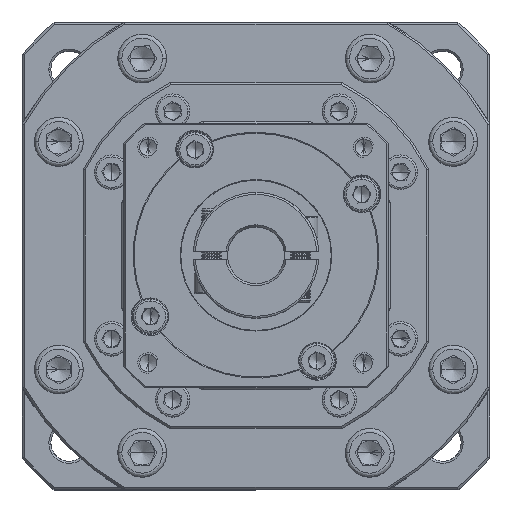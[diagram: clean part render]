
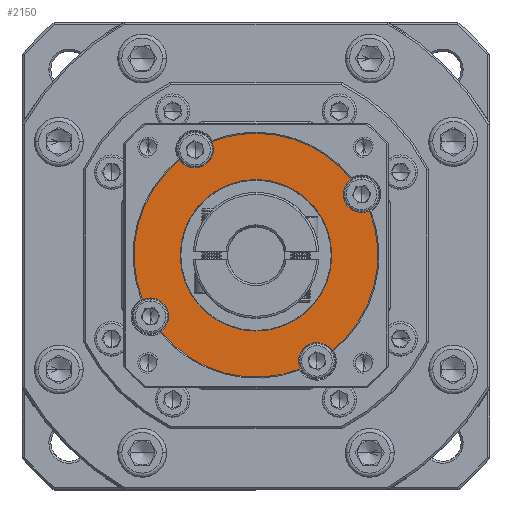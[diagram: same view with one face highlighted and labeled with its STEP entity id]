
A CAD part, top view. The second image highlights one B-rep face of the part: STEP entity #2150.
In plain terms, the highlighted planar face has unit normal (0, 0, 1).
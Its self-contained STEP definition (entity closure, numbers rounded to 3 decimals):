
#1583 = EDGE_CURVE ( 'NONE', #20676, #25884, #42867, .T. ) ;
#1884 = CIRCLE ( 'NONE', #2758, 4.5 ) ;
#2150 = ADVANCED_FACE ( 'NONE', ( #39103, #94639 ), #41889, .T. ) ;
#2758 = AXIS2_PLACEMENT_3D ( 'NONE', #60636, #62562, #83421 ) ;
#5411 = VERTEX_POINT ( 'NONE', #8625 ) ;
#8625 = CARTESIAN_POINT ( 'NONE',  ( 78.881, 85.146, -8.557 ) ) ;
#8920 = CARTESIAN_POINT ( 'NONE',  ( 41.955, 98.079, -8.557 ) ) ;
#9005 = VERTEX_POINT ( 'NONE', #93839 ) ;
#9643 = EDGE_CURVE ( 'NONE', #23961, #38731, #120857, .T. ) ;
#10913 = AXIS2_PLACEMENT_3D ( 'NONE', #143062, #11143, #110137 ) ;
#11143 = DIRECTION ( 'NONE',  ( 0., 0., 1. ) ) ;
#11652 = CARTESIAN_POINT ( 'NONE',  ( 67.936, 113.079, -8.557 ) ) ;
#12842 = DIRECTION ( 'NONE',  ( 0., 1., 0. ) ) ;
#15716 = CARTESIAN_POINT ( 'NONE',  ( 67.936, 113.079, -8.557 ) ) ;
#16223 = ORIENTED_EDGE ( 'NONE', *, *, #98558, .T. ) ;
#17150 = CIRCLE ( 'NONE', #108333, 30. ) ;
#17811 = DIRECTION ( 'NONE',  ( 0., 1., 0. ) ) ;
#18512 = CIRCLE ( 'NONE', #130643, 4.5 ) ;
#19123 = VERTEX_POINT ( 'NONE', #62509 ) ;
#20676 = VERTEX_POINT ( 'NONE', #97247 ) ;
#21327 = AXIS2_PLACEMENT_3D ( 'NONE', #28621, #106267, #105787 ) ;
#22831 = DIRECTION ( 'NONE',  ( 0., 1., 0. ) ) ;
#23805 = CARTESIAN_POINT ( 'NONE',  ( 52.936, 139.059, -8.557 ) ) ;
#23858 = ORIENTED_EDGE ( 'NONE', *, *, #53597, .T. ) ;
#23961 = VERTEX_POINT ( 'NONE', #83883 ) ;
#25309 = CIRCLE ( 'NONE', #85919, 18.644 ) ;
#25884 = VERTEX_POINT ( 'NONE', #41185 ) ;
#26803 = ORIENTED_EDGE ( 'NONE', *, *, #141169, .F. ) ;
#28621 = CARTESIAN_POINT ( 'NONE',  ( 93.917, 128.079, -8.557 ) ) ;
#29601 = DIRECTION ( 'NONE',  ( 0., 0., 1. ) ) ;
#30722 = AXIS2_PLACEMENT_3D ( 'NONE', #15716, #94316, #138421 ) ;
#31512 = AXIS2_PLACEMENT_3D ( 'NONE', #140995, #96417, #17811 ) ;
#31523 = AXIS2_PLACEMENT_3D ( 'NONE', #55917, #133527, #43330 ) ;
#32463 = VERTEX_POINT ( 'NONE', #33455 ) ;
#33020 = CARTESIAN_POINT ( 'NONE',  ( 82.936, 87.098, -8.557 ) ) ;
#33455 = CARTESIAN_POINT ( 'NONE',  ( 44.491, 94.361, -8.557 ) ) ;
#33616 = VERTEX_POINT ( 'NONE', #134063 ) ;
#33688 = DIRECTION ( 'NONE',  ( 0., 0., -1. ) ) ;
#33895 = ORIENTED_EDGE ( 'NONE', *, *, #126915, .T. ) ;
#34742 = CARTESIAN_POINT ( 'NONE',  ( 95.868, 124.024, -8.557 ) ) ;
#38731 = VERTEX_POINT ( 'NONE', #107650 ) ;
#39103 = FACE_BOUND ( 'NONE', #44415, .T. ) ;
#39974 = DIRECTION ( 'NONE',  ( 0., 0., 1. ) ) ;
#40978 = ORIENTED_EDGE ( 'NONE', *, *, #93226, .F. ) ;
#41185 = CARTESIAN_POINT ( 'NONE',  ( 52.936, 134.559, -8.557 ) ) ;
#41889 = PLANE ( 'NONE',  #31523 ) ;
#42249 = CARTESIAN_POINT ( 'NONE',  ( 56.991, 141.011, -8.557 ) ) ;
#42552 = EDGE_CURVE ( 'NONE', #19123, #45758, #141992, .T. ) ;
#42867 = CIRCLE ( 'NONE', #10913, 4.5 ) ;
#43330 = DIRECTION ( 'NONE',  ( 0., 1., 0. ) ) ;
#44415 = EDGE_LOOP ( 'NONE', ( #74117, #33895 ) ) ;
#45758 = VERTEX_POINT ( 'NONE', #34742 ) ;
#47348 = DIRECTION ( 'NONE',  ( 0., 0., 1. ) ) ;
#49213 = CIRCLE ( 'NONE', #30722, 18.644 ) ;
#52416 = CARTESIAN_POINT ( 'NONE',  ( 67.936, 113.079, -8.557 ) ) ;
#52551 = DIRECTION ( 'NONE',  ( 0., 0., 1. ) ) ;
#53039 = EDGE_CURVE ( 'NONE', #54429, #33616, #127359, .T. ) ;
#53597 = EDGE_CURVE ( 'NONE', #38731, #80889, #106206, .T. ) ;
#53907 = CARTESIAN_POINT ( 'NONE',  ( 67.936, 113.079, -8.557 ) ) ;
#54429 = VERTEX_POINT ( 'NONE', #120428 ) ;
#55917 = CARTESIAN_POINT ( 'NONE',  ( 67.936, 113.079, -8.557 ) ) ;
#58541 = DIRECTION ( 'NONE',  ( 0., 1., 0. ) ) ;
#60636 = CARTESIAN_POINT ( 'NONE',  ( 93.917, 128.079, -8.557 ) ) ;
#60869 = CARTESIAN_POINT ( 'NONE',  ( 82.936, 91.598, -8.557 ) ) ;
#62261 = DIRECTION ( 'NONE',  ( 0., 1., 0. ) ) ;
#62509 = CARTESIAN_POINT ( 'NONE',  ( 86.653, 89.634, -8.557 ) ) ;
#62562 = DIRECTION ( 'NONE',  ( 0., 0., 1. ) ) ;
#62791 = AXIS2_PLACEMENT_3D ( 'NONE', #8920, #85563, #118079 ) ;
#63627 = CARTESIAN_POINT ( 'NONE',  ( 67.936, 94.434, -8.557 ) ) ;
#63717 = ORIENTED_EDGE ( 'NONE', *, *, #53039, .F. ) ;
#64028 = EDGE_CURVE ( 'NONE', #20676, #33616, #85203, .T. ) ;
#64284 = CARTESIAN_POINT ( 'NONE',  ( 93.917, 123.579, -8.557 ) ) ;
#64954 = VERTEX_POINT ( 'NONE', #60869 ) ;
#65016 = DIRECTION ( 'NONE',  ( 0., 0., 1. ) ) ;
#68646 = AXIS2_PLACEMENT_3D ( 'NONE', #52416, #29601, #140661 ) ;
#70276 = EDGE_CURVE ( 'NONE', #64954, #5411, #90084, .T. ) ;
#70592 = EDGE_CURVE ( 'NONE', #23961, #130271, #84533, .T. ) ;
#71641 = ORIENTED_EDGE ( 'NONE', *, *, #64028, .T. ) ;
#74117 = ORIENTED_EDGE ( 'NONE', *, *, #100144, .T. ) ;
#75760 = CARTESIAN_POINT ( 'NONE',  ( 41.955, 98.079, -8.557 ) ) ;
#80889 = VERTEX_POINT ( 'NONE', #42249 ) ;
#83421 = DIRECTION ( 'NONE',  ( 0., 1., 0. ) ) ;
#83883 = CARTESIAN_POINT ( 'NONE',  ( 91.381, 131.796, -8.557 ) ) ;
#84533 = CIRCLE ( 'NONE', #21327, 4.5 ) ;
#85203 = CIRCLE ( 'NONE', #103973, 30. ) ;
#85563 = DIRECTION ( 'NONE',  ( 0., 0., 1. ) ) ;
#85919 = AXIS2_PLACEMENT_3D ( 'NONE', #111820, #33688, #12842 ) ;
#86437 = DIRECTION ( 'NONE',  ( 0., 1., 0. ) ) ;
#87912 = ORIENTED_EDGE ( 'NONE', *, *, #141807, .F. ) ;
#90084 = CIRCLE ( 'NONE', #31512, 4.5 ) ;
#90981 = EDGE_LOOP ( 'NONE', ( #40978, #98831, #26803, #109806, #133219, #23858, #87912, #120944, #71641, #63717, #134669, #16223, #111243 ) ) ;
#92481 = CARTESIAN_POINT ( 'NONE',  ( 67.936, 113.079, -8.557 ) ) ;
#93161 = VERTEX_POINT ( 'NONE', #63627 ) ;
#93226 = EDGE_CURVE ( 'NONE', #19123, #64954, #126147, .T. ) ;
#93839 = CARTESIAN_POINT ( 'NONE',  ( 67.936, 131.723, -8.557 ) ) ;
#94316 = DIRECTION ( 'NONE',  ( 0., 0., -1. ) ) ;
#94639 = FACE_OUTER_BOUND ( 'NONE', #90981, .T. ) ;
#94693 = AXIS2_PLACEMENT_3D ( 'NONE', #11652, #99510, #22831 ) ;
#96417 = DIRECTION ( 'NONE',  ( 0., 0., 1. ) ) ;
#97247 = CARTESIAN_POINT ( 'NONE',  ( 49.218, 136.523, -8.557 ) ) ;
#98558 = EDGE_CURVE ( 'NONE', #32463, #5411, #17150, .T. ) ;
#98831 = ORIENTED_EDGE ( 'NONE', *, *, #42552, .T. ) ;
#99510 = DIRECTION ( 'NONE',  ( 0., 0., 1. ) ) ;
#100144 = EDGE_CURVE ( 'NONE', #9005, #93161, #49213, .T. ) ;
#101928 = DIRECTION ( 'NONE',  ( 0., 0., 1. ) ) ;
#103284 = AXIS2_PLACEMENT_3D ( 'NONE', #23805, #101928, #134397 ) ;
#103973 = AXIS2_PLACEMENT_3D ( 'NONE', #53907, #65016, #142602 ) ;
#105787 = DIRECTION ( 'NONE',  ( 0., 1., 0. ) ) ;
#106206 = CIRCLE ( 'NONE', #141804, 30. ) ;
#106267 = DIRECTION ( 'NONE',  ( 0., 0., 1. ) ) ;
#106433 = CARTESIAN_POINT ( 'NONE',  ( 67.936, 113.079, -8.557 ) ) ;
#107650 = CARTESIAN_POINT ( 'NONE',  ( 67.936, 143.079, -8.557 ) ) ;
#108333 = AXIS2_PLACEMENT_3D ( 'NONE', #106433, #39974, #62261 ) ;
#109806 = ORIENTED_EDGE ( 'NONE', *, *, #70592, .F. ) ;
#110137 = DIRECTION ( 'NONE',  ( 0., 1., 0. ) ) ;
#111243 = ORIENTED_EDGE ( 'NONE', *, *, #70276, .F. ) ;
#111617 = DIRECTION ( 'NONE',  ( 0., 0., 1. ) ) ;
#111820 = CARTESIAN_POINT ( 'NONE',  ( 67.936, 113.079, -8.557 ) ) ;
#118079 = DIRECTION ( 'NONE',  ( 0., 1., 0. ) ) ;
#120428 = CARTESIAN_POINT ( 'NONE',  ( 41.955, 102.579, -8.557 ) ) ;
#120857 = CIRCLE ( 'NONE', #68646, 30. ) ;
#120944 = ORIENTED_EDGE ( 'NONE', *, *, #1583, .F. ) ;
#121791 = DIRECTION ( 'NONE',  ( 0., 1., 0. ) ) ;
#123111 = AXIS2_PLACEMENT_3D ( 'NONE', #33020, #111617, #121791 ) ;
#124616 = CIRCLE ( 'NONE', #103284, 4.5 ) ;
#126147 = CIRCLE ( 'NONE', #123111, 4.5 ) ;
#126915 = EDGE_CURVE ( 'NONE', #93161, #9005, #25309, .T. ) ;
#127359 = CIRCLE ( 'NONE', #62791, 4.5 ) ;
#130271 = VERTEX_POINT ( 'NONE', #64284 ) ;
#130643 = AXIS2_PLACEMENT_3D ( 'NONE', #75760, #52551, #86437 ) ;
#133219 = ORIENTED_EDGE ( 'NONE', *, *, #9643, .T. ) ;
#133527 = DIRECTION ( 'NONE',  ( 0., 0., 1. ) ) ;
#134063 = CARTESIAN_POINT ( 'NONE',  ( 40.004, 102.133, -8.557 ) ) ;
#134397 = DIRECTION ( 'NONE',  ( 0., 1., 0. ) ) ;
#134669 = ORIENTED_EDGE ( 'NONE', *, *, #139074, .F. ) ;
#138421 = DIRECTION ( 'NONE',  ( 0., 1., 0. ) ) ;
#139074 = EDGE_CURVE ( 'NONE', #32463, #54429, #18512, .T. ) ;
#140661 = DIRECTION ( 'NONE',  ( 0., 1., 0. ) ) ;
#140995 = CARTESIAN_POINT ( 'NONE',  ( 82.936, 87.098, -8.557 ) ) ;
#141169 = EDGE_CURVE ( 'NONE', #130271, #45758, #1884, .T. ) ;
#141804 = AXIS2_PLACEMENT_3D ( 'NONE', #92481, #47348, #58541 ) ;
#141807 = EDGE_CURVE ( 'NONE', #25884, #80889, #124616, .T. ) ;
#141992 = CIRCLE ( 'NONE', #94693, 30. ) ;
#142602 = DIRECTION ( 'NONE',  ( 0., 1., 0. ) ) ;
#143062 = CARTESIAN_POINT ( 'NONE',  ( 52.936, 139.059, -8.557 ) ) ;
